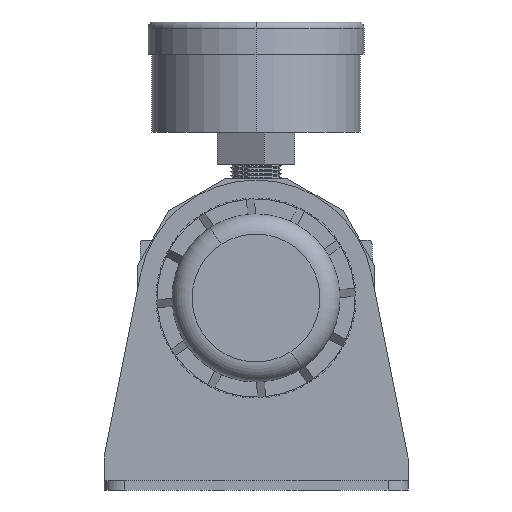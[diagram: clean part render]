
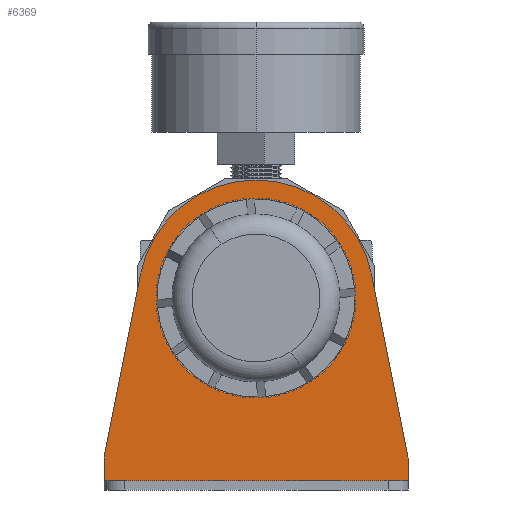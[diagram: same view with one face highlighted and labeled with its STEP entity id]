
A CAD part, front view. The second image highlights one B-rep face of the part: STEP entity #6369.
In plain terms, the highlighted planar face has unit normal (0, -1, 0) as drawn and (0, 1, 0) by its records, which use the part's own axes.
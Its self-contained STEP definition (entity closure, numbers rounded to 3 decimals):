
#43 = VERTEX_POINT ( 'NONE', #19547 ) ;
#720 = CIRCLE ( 'NONE', #10996, 29.5 ) ;
#1014 = DIRECTION ( 'NONE',  ( 0., 0., -1. ) ) ;
#1055 = CARTESIAN_POINT ( 'NONE',  ( -38., 2.3, -45.7 ) ) ;
#1270 = DIRECTION ( 'NONE',  ( 0., 0., 1. ) ) ;
#1731 = ORIENTED_EDGE ( 'NONE', *, *, #18338, .F. ) ;
#1923 = DIRECTION ( 'NONE',  ( 0., 1., 0. ) ) ;
#2280 = DIRECTION ( 'NONE',  ( 0., 0., 1. ) ) ;
#3749 = EDGE_CURVE ( 'NONE', #19303, #24778, #12618, .T. ) ;
#3843 = CARTESIAN_POINT ( 'NONE',  ( -28.937, 2.3, 5.734 ) ) ;
#4039 = EDGE_CURVE ( 'NONE', #24778, #14994, #5709, .T. ) ;
#5590 = DIRECTION ( 'NONE',  ( 0.194, 0., -0.981 ) ) ;
#5709 = LINE ( 'NONE', #20925, #7104 ) ;
#6369 = ADVANCED_FACE ( 'NONE', ( #15571, #13438 ), #7709, .T. ) ;
#6395 = CARTESIAN_POINT ( 'NONE',  ( 28.937, 2.3, 5.734 ) ) ;
#6417 = EDGE_CURVE ( 'NONE', #43, #10850, #22451, .T. ) ;
#6457 = ORIENTED_EDGE ( 'NONE', *, *, #18697, .T. ) ;
#6852 = DIRECTION ( 'NONE',  ( 0., 0., 1. ) ) ;
#7104 = VECTOR ( 'NONE', #1014, 1000. ) ;
#7685 = VERTEX_POINT ( 'NONE', #1055 ) ;
#7709 = PLANE ( 'NONE',  #10324 ) ;
#7946 = VERTEX_POINT ( 'NONE', #20976 ) ;
#8478 = VECTOR ( 'NONE', #2280, 1000. ) ;
#8594 = VECTOR ( 'NONE', #26281, 1000. ) ;
#8605 = ORIENTED_EDGE ( 'NONE', *, *, #14838, .T. ) ;
#8776 = DIRECTION ( 'NONE',  ( 0., 0., 1. ) ) ;
#9457 = DIRECTION ( 'NONE',  ( 0., 1., 0. ) ) ;
#9520 = CARTESIAN_POINT ( 'NONE',  ( 38., 2.3, -40. ) ) ;
#10324 = AXIS2_PLACEMENT_3D ( 'NONE', #10345, #12994, #1270 ) ;
#10345 = CARTESIAN_POINT ( 'NONE',  ( 0., 2.3, 0. ) ) ;
#10697 = VECTOR ( 'NONE', #5590, 1000. ) ;
#10850 = VERTEX_POINT ( 'NONE', #21548 ) ;
#10868 = ORIENTED_EDGE ( 'NONE', *, *, #6417, .F. ) ;
#10996 = AXIS2_PLACEMENT_3D ( 'NONE', #12763, #1923, #8776 ) ;
#11456 = DIRECTION ( 'NONE',  ( 1., 0., 0. ) ) ;
#11619 = CIRCLE ( 'NONE', #14127, 24. ) ;
#11635 = EDGE_LOOP ( 'NONE', ( #1731, #10868 ) ) ;
#12012 = CARTESIAN_POINT ( 'NONE',  ( -38., 2.3, -40. ) ) ;
#12618 = LINE ( 'NONE', #9520, #10697 ) ;
#12763 = CARTESIAN_POINT ( 'NONE',  ( 0., 2.3, 0. ) ) ;
#12797 = LINE ( 'NONE', #26652, #19099 ) ;
#12931 = CARTESIAN_POINT ( 'NONE',  ( 38., 2.3, -40. ) ) ;
#12994 = DIRECTION ( 'NONE',  ( 0., 1., 0. ) ) ;
#13438 = FACE_OUTER_BOUND ( 'NONE', #20260, .T. ) ;
#14127 = AXIS2_PLACEMENT_3D ( 'NONE', #16617, #25233, #17057 ) ;
#14338 = ORIENTED_EDGE ( 'NONE', *, *, #4039, .T. ) ;
#14505 = VERTEX_POINT ( 'NONE', #3843 ) ;
#14838 = EDGE_CURVE ( 'NONE', #7685, #7946, #24339, .T. ) ;
#14994 = VERTEX_POINT ( 'NONE', #18710 ) ;
#15356 = EDGE_CURVE ( 'NONE', #7946, #14505, #18509, .T. ) ;
#15571 = FACE_BOUND ( 'NONE', #11635, .T. ) ;
#16617 = CARTESIAN_POINT ( 'NONE',  ( 0., 2.3, 0. ) ) ;
#17057 = DIRECTION ( 'NONE',  ( 0., 0., 1. ) ) ;
#17669 = AXIS2_PLACEMENT_3D ( 'NONE', #21180, #9457, #6852 ) ;
#17901 = ORIENTED_EDGE ( 'NONE', *, *, #15356, .T. ) ;
#18338 = EDGE_CURVE ( 'NONE', #10850, #43, #11619, .T. ) ;
#18509 = LINE ( 'NONE', #12012, #8594 ) ;
#18693 = ORIENTED_EDGE ( 'NONE', *, *, #18818, .F. ) ;
#18697 = EDGE_CURVE ( 'NONE', #14505, #19303, #720, .T. ) ;
#18710 = CARTESIAN_POINT ( 'NONE',  ( 38., 2.3, -45.7 ) ) ;
#18818 = EDGE_CURVE ( 'NONE', #7685, #14994, #12797, .T. ) ;
#19099 = VECTOR ( 'NONE', #11456, 1000. ) ;
#19303 = VERTEX_POINT ( 'NONE', #6395 ) ;
#19547 = CARTESIAN_POINT ( 'NONE',  ( 0., 2.3, -24. ) ) ;
#19564 = CARTESIAN_POINT ( 'NONE',  ( -38., 2.3, -48. ) ) ;
#20260 = EDGE_LOOP ( 'NONE', ( #18693, #8605, #17901, #6457, #22576, #14338 ) ) ;
#20925 = CARTESIAN_POINT ( 'NONE',  ( 38., 2.3, -48. ) ) ;
#20976 = CARTESIAN_POINT ( 'NONE',  ( -38., 2.3, -40. ) ) ;
#21180 = CARTESIAN_POINT ( 'NONE',  ( 0., 2.3, 0. ) ) ;
#21548 = CARTESIAN_POINT ( 'NONE',  ( 0., 2.3, 24. ) ) ;
#22451 = CIRCLE ( 'NONE', #17669, 24. ) ;
#22576 = ORIENTED_EDGE ( 'NONE', *, *, #3749, .T. ) ;
#24339 = LINE ( 'NONE', #19564, #8478 ) ;
#24778 = VERTEX_POINT ( 'NONE', #12931 ) ;
#25233 = DIRECTION ( 'NONE',  ( 0., 1., 0. ) ) ;
#26281 = DIRECTION ( 'NONE',  ( 0.194, 0., 0.981 ) ) ;
#26652 = CARTESIAN_POINT ( 'NONE',  ( 0., 2.3, -45.7 ) ) ;
